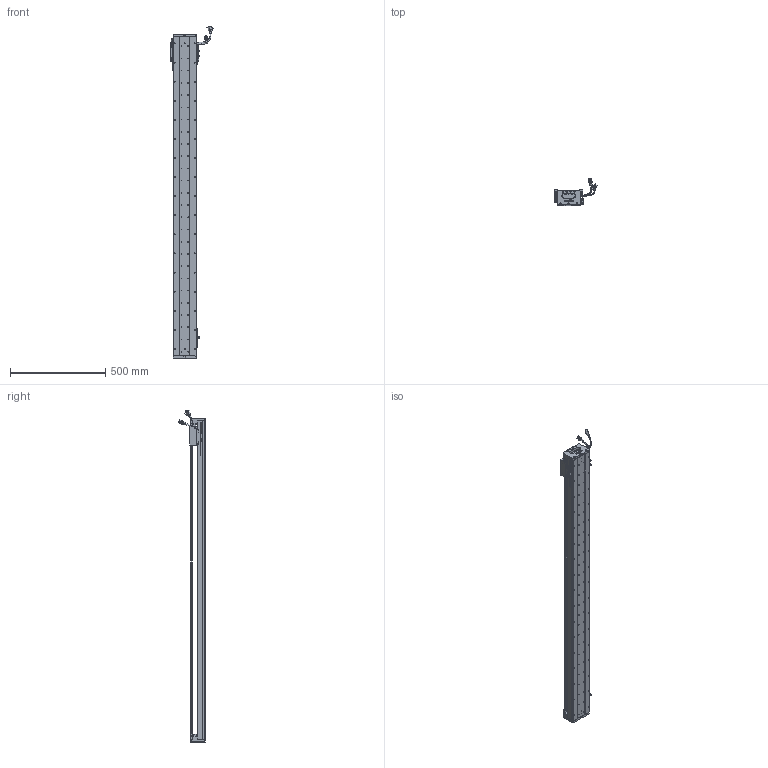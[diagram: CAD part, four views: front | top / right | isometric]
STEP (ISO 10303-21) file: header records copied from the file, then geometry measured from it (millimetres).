
FILE_DESCRIPTION (( 'STEP AP203' ), '1' );
FILE_NAME ('Z1-RY120D-1-L500-B-K.SLDASM_1500.step', '2021-05-17T03:47:43', ( '盈信电脑' ), ( '东莞市道滘镇水果街19号' ), 'SwSTEP 2.0', 'SolidWorks 2016', '' );
FILE_SCHEMA (( 'CONFIG_CONTROL_DESIGN' ));
Length unit declared in the file: millimetre
Products named in the file (37): 080黍杅芛假蚾釱21遴; SCREW-M1.6-1; RY100FB-遵嫖萇覜茼え; Z1-RY120铝滑块（21款）; Z-120詩湍傷裔啣; LABEL; HOLDER0; 120-Z-臏賑輸盄裔(21遴); SHIELDPLATE; SCREW-M1.6; SCREW-M1.6-3; Z-RY120D詩湍狟揤裔; PSLH080_PSLF2; 140蚥薯蝶輸; Z-RY120D詩湍奻揤裔; SEAL; PBU_SHEET; COVER-Part-1; 榋妏寠巭燃_暯_M2_2; SCALE; Z1-RY120D-1-L500-B-K.SLDASM_1500; HARNESS; SCREW-M1.7; 672嫖萇羲壽假蚾釱; 140雄赽晤鎢ん堤盄; SEAL-Part-1; Z1-RY120-L500詩湍100mm遵_1500; COVER; SCALE-Part-1; Z1-RY120-500-倰第菁釱_1500; HARNESS-Part-2; HARNESS-Part-1; SCREW-M1.6-2; 覜茼ん672; LABEL-Part-1; SCREW-M1.7-1; SCALE-Part-2
Assembly tree (43 placements, depth 4):
  Z1-RY120D-1-L500-B-K.SLDASM_1500
    Z1-RY120-500-倰第菁釱_1500
    覜茼ん672  x3
    672嫖萇羲壽假蚾釱  x2
    Z1-RY120铝滑块（21款）
    PSLH080_PSLF2
      SCALE
        SCALE-Part-1
        SCALE-Part-2
      HARNESS
        HARNESS-Part-1
        HARNESS-Part-2
      LABEL
        LABEL-Part-1
      COVER
        COVER-Part-1
      SEAL
        SEAL-Part-1
      榋妏寠巭燃_暯_M2_2
      SHIELDPLATE
      SCREW-M1.7
      SCREW-M1.7-1
      PBU_SHEET
      SCREW-M1.6
      SCREW-M1.6-1
      SCREW-M1.6-2
      SCREW-M1.6-3
      HOLDER0
    080黍杅芛假蚾釱21遴
    120-Z-臏賑輸盄裔(21遴)
    140雄赽晤鎢ん堤盄
    140蚥薯蝶輸  x2
    RY100FB-遵嫖萇覜茼え
    Z-120詩湍傷裔啣  x2
    Z-RY120D詩湍奻揤裔  x2
    Z-RY120D詩湍狟揤裔  x2
    Z1-RY120-L500詩湍100mm遵_1500
Bounding box: 222.86 x 140.94 x 1738.99 mm (x, y, z)
Volume: 4058668.7 mm3; surface area: 1444842.5 mm2
Topology: 38 solids, 38 shells, 3103 faces, 8626 edges, 5454 vertices
Faces by surface type: cylinder 1510, plane 1167, cone 304, torus 69, bspline 53
Entity records: 98845 total; most frequent: CARTESIAN_POINT 28724, ORIENTED_EDGE 14172, DIRECTION 13330, EDGE_CURVE 7086, AXIS2_PLACEMENT_3D 4880, VERTEX_POINT 4574, LINE 3570, VECTOR 3570
